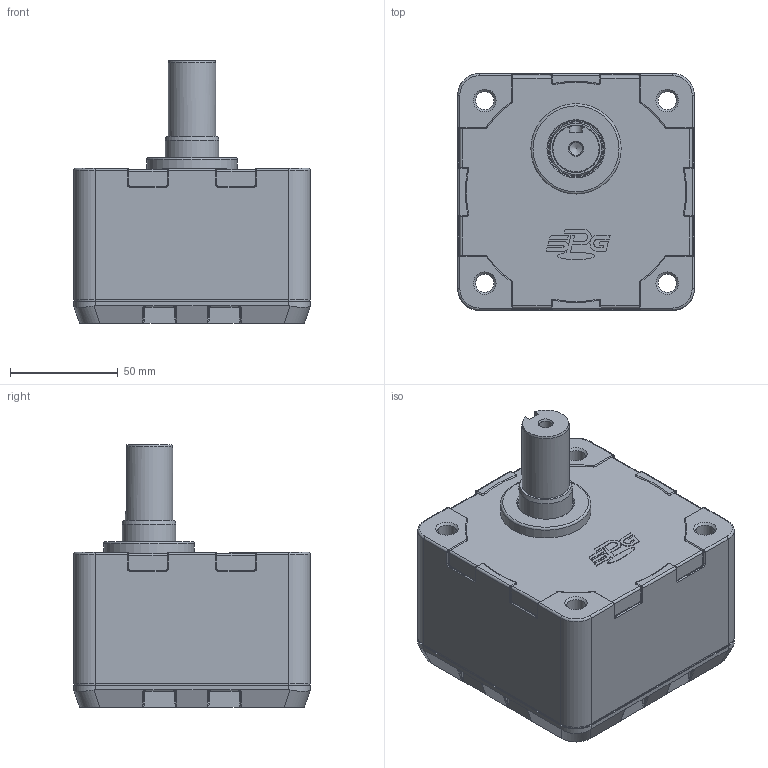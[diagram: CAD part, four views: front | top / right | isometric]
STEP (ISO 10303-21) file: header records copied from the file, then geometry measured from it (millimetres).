
FILE_DESCRIPTION((''),'2;1');
FILE_NAME('C:\Documents and Settings\Administrator\바탕 화면\BLDC 3D FILE\GEAR HEAD ASS''Y\60\XTG1030K~XTG1050K.stp','2014-06-19T12:48:18',('kdhkdh'),(''),'Autodesk Inventor 2011','Autodesk Inventor 2011','');
FILE_SCHEMA(('AUTOMOTIVE_DESIGN { 1 0 10303 214 1 1 1 1 }'));
Length unit declared in the file: millimetre
Products named in the file (1): 부품6
Bounding box: 110 x 110 x 122 mm (x, y, z)
Volume: 595124.5 mm3; surface area: 95069.5 mm2
Topology: 1 solids, 1 shells, 481 faces, 1196 edges, 742 vertices
Faces by surface type: cylinder 185, plane 156, torus 60, bspline 53, cone 27
Full cylindrical faces by diameter (mm): 4 x4, 4.5 x4, 6 x1, 8 x4, 8.5 x4, 9.5 x4, 13 x1, 22 x1, 25 x2, 26 x1, 42 x1, 94 x1
Entity records: 15853 total; most frequent: CARTESIAN_POINT 4563, DIRECTION 2482, ORIENTED_EDGE 2242, EDGE_CURVE 1121, AXIS2_PLACEMENT_3D 992, VERTEX_POINT 722, EDGE_LOOP 569, VECTOR 498
